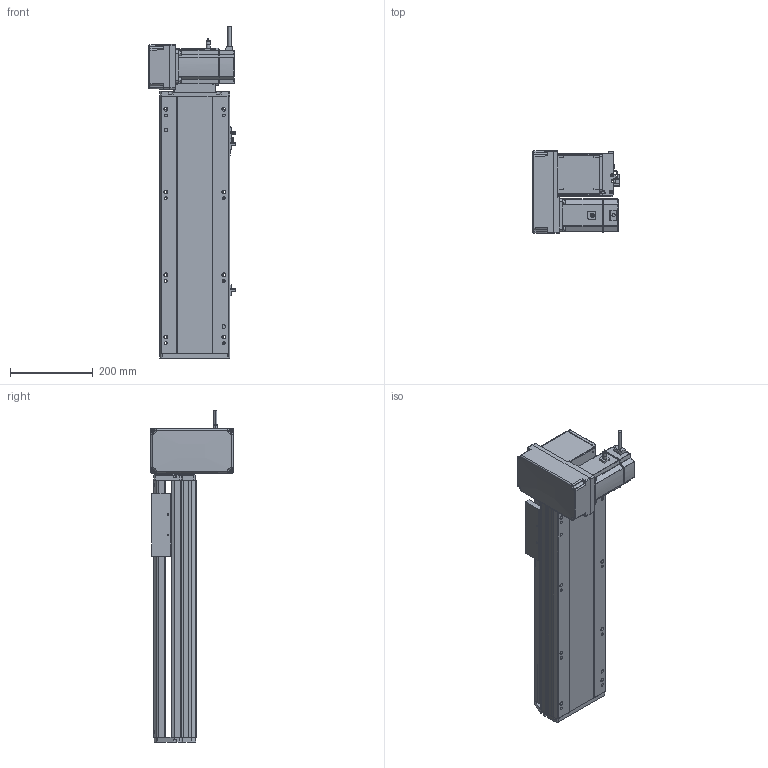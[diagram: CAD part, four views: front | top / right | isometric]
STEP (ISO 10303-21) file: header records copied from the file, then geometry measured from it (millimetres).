
FILE_DESCRIPTION (( 'STEP AP214' ), '1' );
FILE_NAME ('RTB17S-XX-350-LM-M75-C4.STEP', '2025-12-12T00:34:34', ( '' ), ( '' ), 'SwSTEP 2.0', 'SolidWorks 2018', '' );
FILE_SCHEMA (( 'AUTOMOTIVE_DESIGN' ));
Length unit declared in the file: millimetre
Products named in the file (15): RTB17S-LM-々湍釱蚾饜-750W^RTB17S-XX-XX-LM-M75-C4; RTB17S-L-004-賑釱^RTB17S-賑釱_RTB17S-XX-XX-LM-M75-C4; RTB22S-GY-017P^RTB17S-LM-々湍釱蚾饜-750W_RTB17S-XX-XX-LM-M75-C4; RTB22S-GY-005P^RTB17S-LM-々湍釱蚾饜-750W_RTB17S-XX-XX-LM-M75-C4; RTB17S-XX-350-LM-M75-C4; EE672^RTB17S-XX-XX-LM-M75-C4; RTB17-R-011菁釱^RTB17S-XX-XX-LM-M75-C4; RTB22S-GY-008-M75--萇儂啣^RTB17S-LM-々湍釱蚾饜-750W_RTB17S-XX-XX-LM-M75-C4; RTB17S-L-014-T20-P75--々湍釱^RTB17S-LM-々湍釱蚾饜-750W_RTB17S-XX-XX-LM-M75-C4; 750W萇儂^RTB17S-XX-XX-LM-M75-C4; RTB17S-L-007奻裔^RTB17S-XX-XX-LM-M75-C4; RTB17S-賑釱^RTB17S-XX-XX-LM-M75-C4; RTB17S-L-001-耜醱啣^RTB17S-XX-XX-LM-M75-C4; RTB22S-GY-018P^RTB17S-LM-々湍釱蚾饜-750W_RTB17S-XX-XX-LM-M75-C4; RTH13-BL-012覜茼え俋离^RTB17S-賑釱_RTB17S-XX-XX-LM-M75-C4
Assembly tree (17 placements, depth 3):
  RTB17S-XX-350-LM-M75-C4
    RTB17-R-011菁釱^RTB17S-XX-XX-LM-M75-C4
    EE672^RTB17S-XX-XX-LM-M75-C4  x3
    RTB17S-L-001-耜醱啣^RTB17S-XX-XX-LM-M75-C4
    RTB17S-賑釱^RTB17S-XX-XX-LM-M75-C4
      RTB17S-L-004-賑釱^RTB17S-賑釱_RTB17S-XX-XX-LM-M75-C4
      RTH13-BL-012覜茼え俋离^RTB17S-賑釱_RTB17S-XX-XX-LM-M75-C4
    RTB17S-L-007奻裔^RTB17S-XX-XX-LM-M75-C4
    750W萇儂^RTB17S-XX-XX-LM-M75-C4
    RTB17S-LM-々湍釱蚾饜-750W^RTB17S-XX-XX-LM-M75-C4
      RTB17S-L-014-T20-P75--々湍釱^RTB17S-LM-々湍釱蚾饜-750W_RTB17S-XX-XX-LM-M75-C4
      RTB22S-GY-005P^RTB17S-LM-々湍釱蚾饜-750W_RTB17S-XX-XX-LM-M75-C4
      RTB22S-GY-017P^RTB17S-LM-々湍釱蚾饜-750W_RTB17S-XX-XX-LM-M75-C4  x2
      RTB22S-GY-008-M75--萇儂啣^RTB17S-LM-々湍釱蚾饜-750W_RTB17S-XX-XX-LM-M75-C4
      RTB22S-GY-018P^RTB17S-LM-々湍釱蚾饜-750W_RTB17S-XX-XX-LM-M75-C4
Bounding box: 210.4 x 200 x 802.2 mm (x, y, z)
Volume: 8137885.8 mm3; surface area: 1272505.1 mm2
Topology: 17 solids, 17 shells, 2041 faces, 5620 edges, 3626 vertices
Faces by surface type: plane 964, cylinder 661, bspline 294, cone 110, sphere 8, torus 4
Entity records: 55798 total; most frequent: CARTESIAN_POINT 16284, ORIENTED_EDGE 8084, DIRECTION 7592, EDGE_CURVE 4042, AXIS2_PLACEMENT_3D 2646, VERTEX_POINT 2630, VECTOR 2300, LINE 2300
